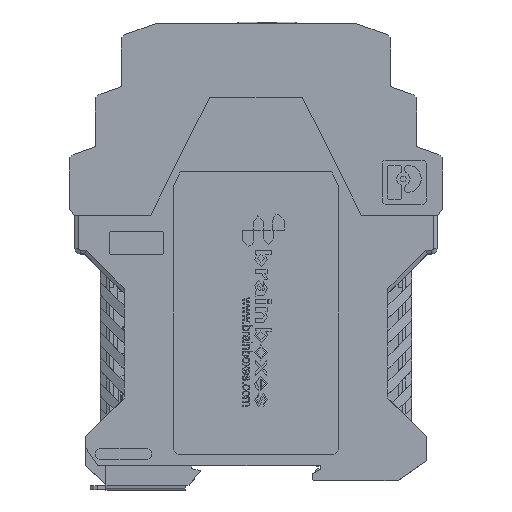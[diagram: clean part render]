
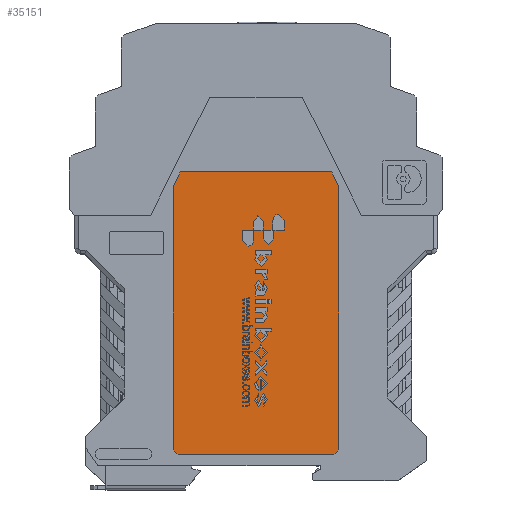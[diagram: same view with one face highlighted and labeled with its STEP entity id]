
A CAD part, top view. The second image highlights one B-rep face of the part: STEP entity #35151.
In plain terms, the highlighted planar face has unit normal (0, 0, 1).
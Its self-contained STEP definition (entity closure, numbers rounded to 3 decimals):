
#35151=ADVANCED_FACE('',(#71070),#71071,.T.);
#71070=FACE_OUTER_BOUND('',#113497,.T.);
#71071=PLANE('',#113498);
#113497=EDGE_LOOP('',(#217565,#217566,#217567,#217568,#217569,#217570,#217571,#217572));
#113498=AXIS2_PLACEMENT_3D('',#217573,#217574,#217575);
#217565=ORIENTED_EDGE('',*,*,#266060,.T.);
#217566=ORIENTED_EDGE('',*,*,#266062,.T.);
#217567=ORIENTED_EDGE('',*,*,#266063,.T.);
#217568=ORIENTED_EDGE('',*,*,#266053,.F.);
#217569=ORIENTED_EDGE('',*,*,#266064,.T.);
#217570=ORIENTED_EDGE('',*,*,#266049,.T.);
#217571=ORIENTED_EDGE('',*,*,#266065,.T.);
#217572=ORIENTED_EDGE('',*,*,#266057,.T.);
#217573=CARTESIAN_POINT('',(6.465,75.955,22.4));
#217574=DIRECTION('',(0.0,0.0,1.0));
#217575=DIRECTION('',(1.0,-0.0,0.0));
#266049=EDGE_CURVE('',#328639,#328641,#328643,.T.);
#266053=EDGE_CURVE('',#328647,#328645,#328649,.T.);
#266057=EDGE_CURVE('',#328651,#328653,#328655,.T.);
#266060=EDGE_CURVE('',#328653,#328657,#328659,.T.);
#266062=EDGE_CURVE('',#328657,#328661,#328662,.T.);
#266063=EDGE_CURVE('',#328661,#328645,#328663,.T.);
#266064=EDGE_CURVE('',#328647,#328639,#328664,.T.);
#266065=EDGE_CURVE('',#328641,#328651,#328665,.T.);
#328639=VERTEX_POINT('',#425755);
#328641=VERTEX_POINT('',#425758);
#328643=LINE('',#425761,#425762);
#328645=VERTEX_POINT('',#425764);
#328647=VERTEX_POINT('',#425767);
#328649=LINE('',#425770,#425771);
#328651=VERTEX_POINT('',#425773);
#328653=VERTEX_POINT('',#425776);
#328655=LINE('',#425779,#425780);
#328657=VERTEX_POINT('',#425782);
#328659=LINE('',#425785,#425786);
#328661=VERTEX_POINT('',#425788);
#328662=LINE('',#425789,#425790);
#328663=CIRCLE('',#425791,2.0);
#328664=CIRCLE('',#425792,2.0);
#328665=LINE('',#425793,#425794);
#425755=CARTESIAN_POINT('',(22.65,5.,22.4));
#425758=CARTESIAN_POINT('',(22.65,76.3,22.4));
#425761=CARTESIAN_POINT('',(22.65,-8.,22.4));
#425762=VECTOR('',#471992,1.0);
#425764=CARTESIAN_POINT('',(-20.65,3.,22.4));
#425767=CARTESIAN_POINT('',(20.65,3.,22.4));
#425770=CARTESIAN_POINT('',(0.,3.,22.4));
#425771=VECTOR('',#471995,1.0);
#425773=CARTESIAN_POINT('',(20.65,80.3,22.4));
#425776=CARTESIAN_POINT('',(-20.65,80.3,22.4));
#425779=CARTESIAN_POINT('',(0.,80.3,22.4));
#425780=VECTOR('',#471998,1.0);
#425782=CARTESIAN_POINT('',(-22.65,76.3,22.4));
#425785=CARTESIAN_POINT('',(-51.84,17.92,22.4));
#425786=VECTOR('',#472000,1.0);
#425788=CARTESIAN_POINT('',(-22.65,5.,22.4));
#425789=CARTESIAN_POINT('',(-22.65,-8.,22.4));
#425790=VECTOR('',#472001,1.0);
#425791=AXIS2_PLACEMENT_3D('',#472002,#472003,#472004);
#425792=AXIS2_PLACEMENT_3D('',#472005,#472006,#472007);
#425793=CARTESIAN_POINT('',(51.84,17.92,22.4));
#425794=VECTOR('',#472008,1.0);
#471992=DIRECTION('',(0.,1.0,0.0));
#471995=DIRECTION('',(-1.0,0.,0.0));
#471998=DIRECTION('',(-1.0,0.0,0.0));
#472000=DIRECTION('',(-0.447,-0.894,0.0));
#472001=DIRECTION('',(0.,-1.0,0.0));
#472002=CARTESIAN_POINT('',(-20.65,5.,22.4));
#472003=DIRECTION('',(0.0,0.0,1.0));
#472004=DIRECTION('',(1.0,0.0,0.0));
#472005=CARTESIAN_POINT('',(20.65,5.,22.4));
#472006=DIRECTION('',(0.0,0.0,1.0));
#472007=DIRECTION('',(1.0,0.0,0.0));
#472008=DIRECTION('',(-0.447,0.894,0.0));
